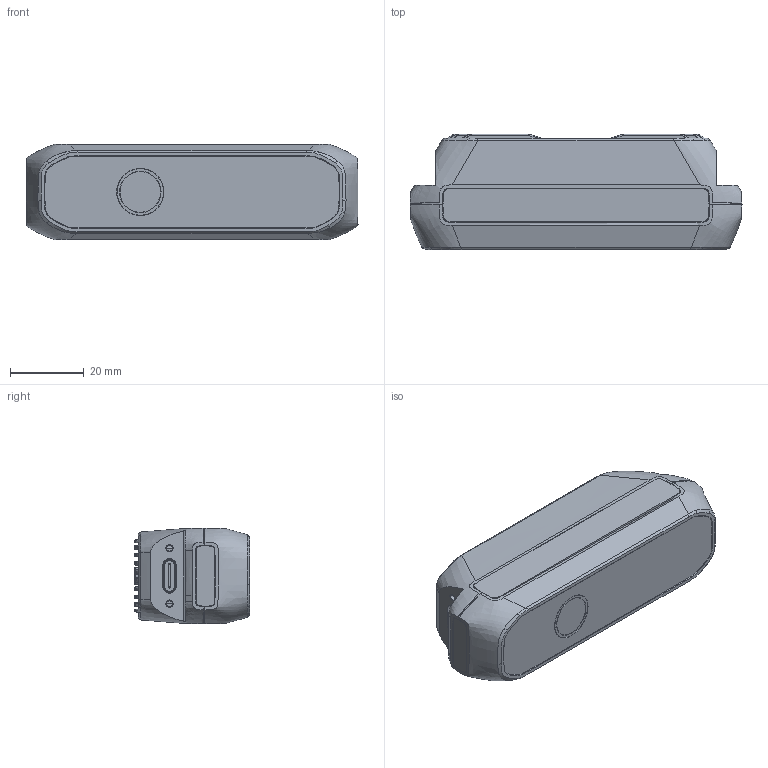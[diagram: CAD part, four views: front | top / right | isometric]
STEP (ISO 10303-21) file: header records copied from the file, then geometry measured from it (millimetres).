
FILE_DESCRIPTION((''),'2;1');
FILE_NAME('TOF_ASM','2023-12-22T12:26:33',('guotianbo'),(''),'CREO PARAMETRIC BY PTC INC, 2020044','CREO PARAMETRIC BY PTC INC, 2020044','');
FILE_SCHEMA(('AUTOMOTIVE_DESIGN { 1 0 10303 214 1 1 1 1 }'));
Products named in the file (12): DE-13-001310_41; DE-13-001291_58; DE-17-002222_15; SC-KM2X6-BNI-GB819_1; DE-13-001300_76; DE-18-000155_10; DE-18-000154_14; 101306544_1; 1_0T-1-WT-8A_1; PCB-MV-20246_ASM_5_ASM; 300S-UM_ASM_8_ASM; TOF_ASM
Assembly tree (14 placements, depth 4):
  TOF_ASM
    300S-UM_ASM_8_ASM
      DE-13-001310_41
      DE-13-001291_58
      DE-17-002222_15
      SC-KM2X6-BNI-GB819_1  x4
      DE-13-001300_76
      DE-18-000155_10
      DE-18-000154_14
      PCB-MV-20246_ASM_5_ASM
        101306544_1
        1_0T-1-WT-8A_1
Bounding box: 89.96 x 31.21 x 26.01 mm (x, y, z)
Volume: 70535.4 mm3; surface area: 40015.5 mm2
Topology: 12 solids, 79 shells, 4067 faces, 11388 edges, 7856 vertices
Faces by surface type: plane 2214, cylinder 1077, bspline 285, cone 226, torus 105, extrusion 104, sphere 56
Entity records: 163509 total; most frequent: CARTESIAN_POINT 63240, ORIENTED_EDGE 21038, DIRECTION 18809, EDGE_CURVE 10564, VECTOR 6957, LINE 6853, VERTEX_POINT 6852, AXIS2_PLACEMENT_3D 5926
